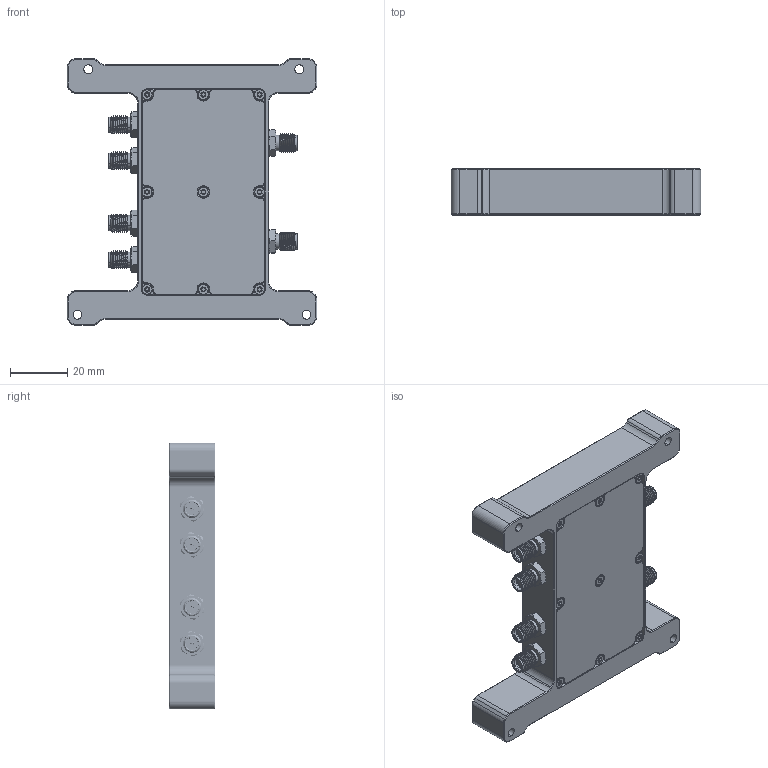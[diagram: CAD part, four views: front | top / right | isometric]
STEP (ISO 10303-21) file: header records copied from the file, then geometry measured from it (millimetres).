
FILE_DESCRIPTION (( 'STEP AP214' ), '1' );
FILE_NAME ('Satlab_SRU-2_v1.1.STEP', '2025-05-07T16:25:19', ( '' ), ( '' ), 'SwSTEP 2.0', 'SolidWorks 2024', '' );
FILE_SCHEMA (( 'AUTOMOTIVE_DESIGN' ));
Length unit declared in the file: millimetre
Products named in the file (30): M2x6_TX6(145800206)-10; SMA_chassis_901-9841-1; M2x6_TX6(145800206)-4; SMA_chassis_901-9841-3; SMA_chassis_901-9841; M2x6_TX6(145800206)-2; M2x6_TX6(145800206)-6; M2x6_TX6(145800206)-12; 50M02-02-1; 50M01-03; 50M02-02; Satlab_SRU-2_v1.1; PCB_154-12-1; M2x6_TX6(145800206)-9; SMA_chassis_901-9841-2; M2x6_TX6(145800206)-3; M2x6_TX6(145800206)-7; M2x6_TX6(145800206)-15; M2x6_TX6(145800206)-5; M2x6_TX6(145800206)-16; M2x6_TX6(145800206)-1; SMA_chassis_901-9841-4; M2x6_TX6(145800206); M2x6_TX6(145800206)-13; M2x6_TX6(145800206)-8; M2x6_TX6(145800206)-14; SMA_chassis_901-9841-5; M2x6_TX6(145800206)-17; PCB_154-12; M2x6_TX6(145800206)-11
Assembly tree (29 placements, depth 2):
  Satlab_SRU-2_v1.1
    50M01-03
    50M02-02
    SMA_chassis_901-9841
    SMA_chassis_901-9841-1
    SMA_chassis_901-9841-2
    SMA_chassis_901-9841-3
    SMA_chassis_901-9841-4
    SMA_chassis_901-9841-5
    50M02-02-1
    M2x6_TX6(145800206)
    M2x6_TX6(145800206)-1
    M2x6_TX6(145800206)-2
    M2x6_TX6(145800206)-3
    M2x6_TX6(145800206)-4
    M2x6_TX6(145800206)-5
    M2x6_TX6(145800206)-6
    M2x6_TX6(145800206)-7
    M2x6_TX6(145800206)-8
    M2x6_TX6(145800206)-9
    M2x6_TX6(145800206)-10
    M2x6_TX6(145800206)-11
    M2x6_TX6(145800206)-12
    M2x6_TX6(145800206)-13
    M2x6_TX6(145800206)-14
    M2x6_TX6(145800206)-15
    M2x6_TX6(145800206)-16
    M2x6_TX6(145800206)-17
    PCB_154-12
    PCB_154-12-1
Bounding box: 87.2 x 16 x 93 mm (x, y, z)
Volume: 57483 mm3; surface area: 42377.9 mm2
Topology: 23 solids, 59 shells, 2366 faces, 5760 edges, 3484 vertices
Faces by surface type: bspline 756, cylinder 536, plane 504, cone 354, torus 216
Entity records: 103953 total; most frequent: CARTESIAN_POINT 54417, ORIENTED_EDGE 11328, DIRECTION 8228, EDGE_CURVE 5700, VERTEX_POINT 3484, AXIS2_PLACEMENT_3D 3257, EDGE_LOOP 2536, FACE_OUTER_BOUND 2366
